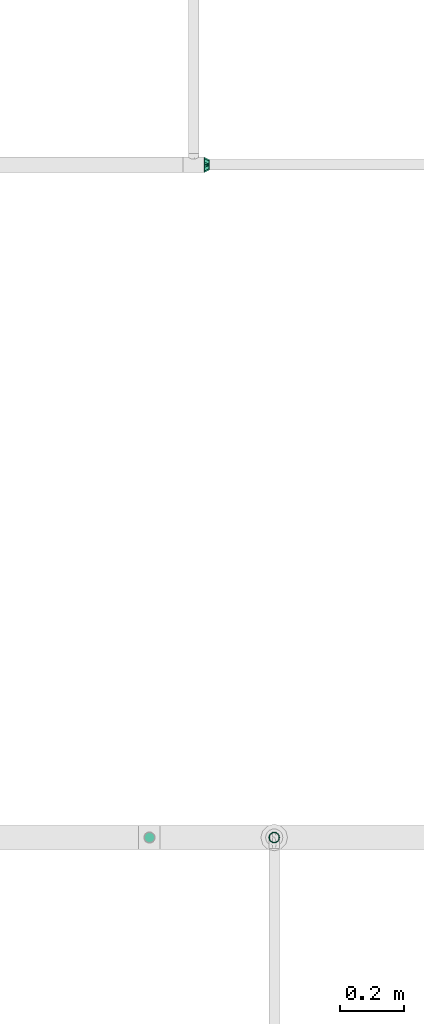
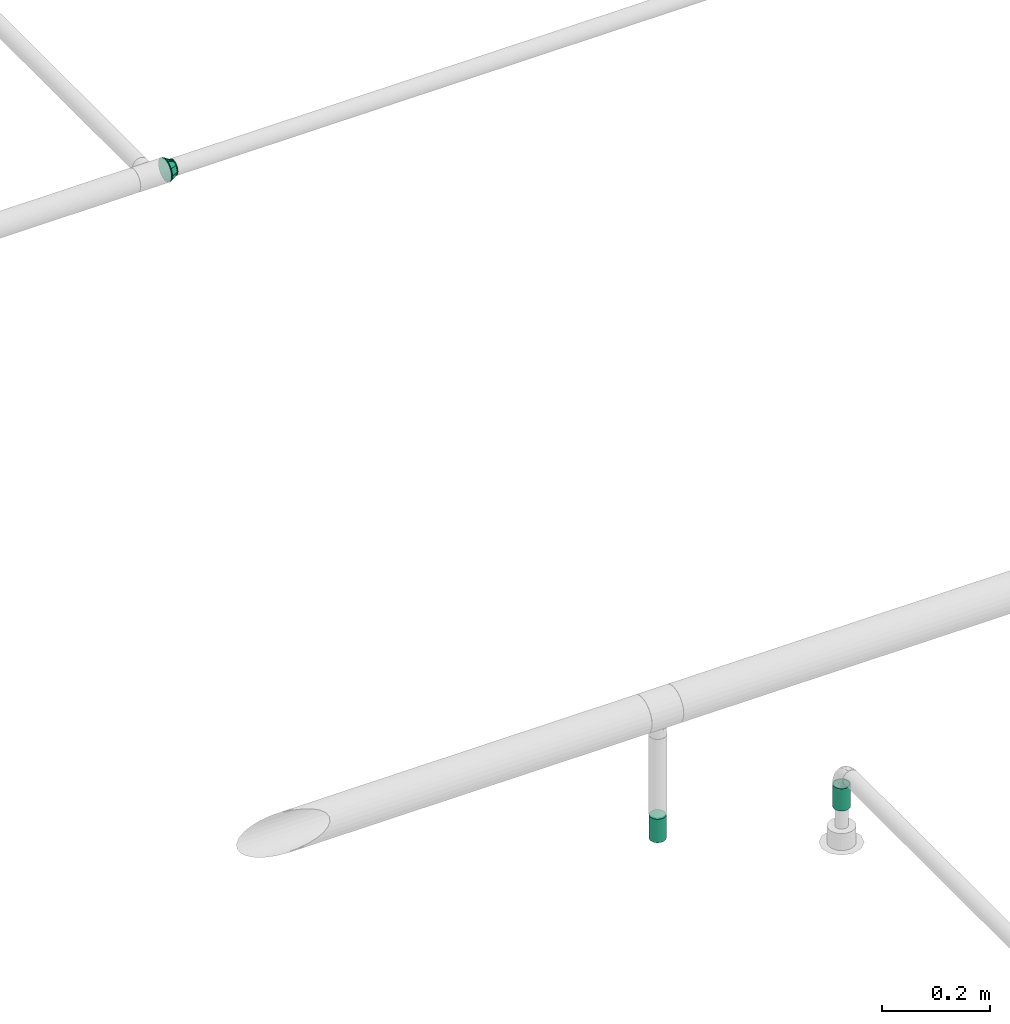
# One storey, part 31 of 45: 1 flow fitting, 1 flow segment, 1 flow terminal.
"""IFC2X3 building model written with IfcOpenShell, lengths in millimetres."""

from ifc_helpers import new_model, entity, si_unit, converted_unit, derived_unit, direction, frame, origin_with_axes, origin_2d_with_axis, place, context, subcontext, project, spatial, hollow_circle, extrude, open_shell, surface_model, source, transform, mapped, type_object, element, save


model = new_model("IFC2X3")

# Units and contexts
model_context = context("Model", 3, precision=0.01, world=frame((0.0, 4.29681676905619e-09, 0.0)), true_north=direction((4.01073788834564e-13, 1.0)))
plan_context = context("Plan", 3, precision=0.01, world=frame((0.0, 4.29681676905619e-09, 0.0)), true_north=direction((4.01073788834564e-13, 1.0)))
body_context = subcontext(model_context, "Body", "Model", "MODEL_VIEW")
ifc_project = project(units=[converted_unit("PLANEANGLEUNIT", "DEGREE", entity("IfcPositiveLengthMeasure", 0.0174532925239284), si_unit("PLANEANGLEUNIT", "RADIAN"), dimensions=[0, 0, 0, 0, 0, 0, 0]), si_unit("AREAUNIT", "SQUARE_METRE"), si_unit("LENGTHUNIT", "METRE", prefix="MILLI"), si_unit("MASSUNIT", "GRAM", prefix="KILO"), si_unit("POWERUNIT", "WATT"), si_unit("PRESSUREUNIT", "PASCAL", prefix="KILO"), si_unit("FORCEUNIT", "NEWTON", prefix="KILO"), si_unit("ELECTRICVOLTAGEUNIT", "VOLT"), si_unit("ELECTRICCURRENTUNIT", "AMPERE"), si_unit("THERMODYNAMICTEMPERATUREUNIT", "DEGREE_CELSIUS"), si_unit("TIMEUNIT", "SECOND"), si_unit("VOLUMEUNIT", "CUBIC_METRE"), derived_unit("LINEARVELOCITYUNIT", [(si_unit("LENGTHUNIT", "METRE"), 1), (si_unit("TIMEUNIT", "SECOND"), -1)]), derived_unit("VOLUMETRICFLOWRATEUNIT", [(si_unit("VOLUMEUNIT", "CUBIC_METRE"), 1), (si_unit("TIMEUNIT", "SECOND"), -1)]), derived_unit("THERMALTRANSMITTANCEUNIT", [(si_unit("POWERUNIT", "WATT"), 1), (si_unit("THERMODYNAMICTEMPERATUREUNIT", "KELVIN"), -1), (si_unit("AREAUNIT", "SQUARE_METRE"), -1)]), derived_unit("SOUNDPRESSUREUNIT", [(si_unit("PRESSUREUNIT", "PASCAL"), 1)])], contexts=[model_context, plan_context])

# Site, building, storey
site_placement = place(None, frame((0.0, -4.29681676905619e-09, 0.0), z_axis=(0.0, 0.0, 1.0), x_axis=(1.0, 0.0, 0.0)))
site = spatial("IfcSite", under=ifc_project, at=site_placement, CompositionType="ELEMENT")
building_placement = place(site_placement, frame((0.0, 4.29681676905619e-09, 0.0), z_axis=(0.0, 0.0, 1.0), x_axis=(1.0, 0.0, 0.0)))
building = spatial("IfcBuilding", under=site, at=building_placement, Name="mc-building", CompositionType="ELEMENT")
storey_placement = place(building_placement, frame((0.0, 0.0, 210200.0), z_axis=(0.0, 0.0, 1.0), x_axis=(1.0, 0.0, 0.0)))
storey = spatial("IfcBuildingStorey", under=building, at=storey_placement, Name="Nivå F - 0,7 m", CompositionType="ELEMENT", Elevation=210200.0)

# Flow fitting
pipe_fitting_type = type_object("IfcPipeFittingType", Name="magi_pipe_fe_reducer_centric_short_001", PredefinedType="TRANSITION")
shared_shape_1 = source(origin_with_axes(), body_context, "Body", "SurfaceModel", [
    surface_model("IfcShellBasedSurfaceModel", [(-2.0, 0.0, 24.2), (-2.0, 6.26342, 23.37541), (-2.0, 12.1, 20.95781), (-2.0, 17.11198, 17.11198), (-2.0, 24.2, 0.0), (-2.0, 20.95781, 12.1), (-2.0, -23.37541, 6.26342), (-2.0, -17.11198, -17.11198), (-2.0, -6.26342, 23.37541), (-2.0, -17.11198, 17.11198), (-2.0, -12.1, 20.95781), (-2.0, -20.95781, 12.1), (-2.0, -24.2, 0.0), (-2.0, 23.37541, 6.26342), (-2.0, 23.37541, -6.26342), (-2.0, 6.26342, -23.37541), (-2.0, 17.11198, -17.11198), (-2.0, 20.95781, -12.1), (-2.0, 12.1, -20.95781), (-2.0, -23.37541, -6.26342), (-2.0, -20.95781, -12.1), (-2.0, -6.26342, -23.37541), (-2.0, -12.1, -20.95781), (-2.0, 0.0, -24.2), (0.0, 24.2, 0.0), (0.0, 6.26342, -23.37541), (0.0, 12.1, -20.95781), (0.0, 23.37541, -6.26342), (0.0, 17.11198, -17.11198), (0.0, 20.95781, -12.1), (0.0, -24.2, 0.0), (0.0, -12.1, -20.95781), (0.0, -6.26342, -23.37541), (0.0, 0.0, -24.2), (0.0, -17.11198, -17.11198), (0.0, -23.37541, -6.26342), (0.0, -20.95781, -12.1), (0.0, 20.95781, 12.1), (0.0, 17.11198, 17.11198), (0.0, 12.1, 20.95781), (0.0, 6.26342, 23.37541), (0.0, 0.0, 24.2), (0.0, -23.37541, 6.26342), (0.0, -17.11198, 17.11198), (0.0, -20.95781, 12.1), (0.0, -6.26342, 23.37541), (0.0, -12.1, 20.95781), (0.0, 23.37541, 6.26342), (0.0, 7.47821, 23.01557), (0.0, 19.57821, 14.2244), (0.0, -7.47821, 23.01557), (0.0, 7.47821, -23.01557), (0.0, 19.57821, -14.2244), (0.0, -7.47821, -23.01557), (0.0, -19.57821, -14.2244), (16.6, 4.37404, -16.32415), (16.6, 8.45, -14.63583), (16.6, 11.9501, -11.9501), (16.6, 0.0, -16.9), (16.6, 16.32415, -4.37404), (16.6, 16.32415, 4.37404), (16.6, 14.63583, -8.45), (16.6, -8.45, 14.63583), (16.6, -8.45, -14.63583), (16.6, -4.37404, -16.32415), (16.6, -11.9501, -11.9501), (16.6, -16.32415, -4.37404), (16.6, -14.63583, -8.45), (16.6, -16.32415, 4.37404), (16.6, 16.9, 0.0), (16.6, 14.63583, 8.45), (16.6, 11.9501, 11.9501), (16.6, 4.37404, 16.32415), (16.6, 8.45, 14.63583), (16.6, 0.0, 16.9), (16.6, -14.63583, 8.45), (16.6, -16.9, 0.0), (16.6, -11.9501, 11.9501), (16.6, -4.37404, 16.32415), (14.6, 11.9501, 11.9501), (14.6, 0.0, 16.9), (14.6, 4.37404, 16.32415), (14.6, 8.45, 14.63583), (14.6, 14.63583, 8.45), (14.6, 16.32415, 4.37404), (14.6, -16.32415, 4.37404), (14.6, -8.45, -14.63583), (14.6, -8.45, 14.63583), (14.6, -14.63583, 8.45), (14.6, -11.9501, 11.9501), (14.6, -4.37404, 16.32415), (14.6, -16.32415, -4.37404), (14.6, -16.9, 0.0), (14.6, 16.32415, -4.37404), (14.6, 11.9501, -11.9501), (14.6, 14.63583, -8.45), (14.6, 8.45, -14.63583), (14.6, 4.37404, -16.32415), (14.6, 0.0, -16.9), (14.6, -11.9501, -11.9501), (14.6, -14.63583, -8.45), (14.6, -4.37404, -16.32415), (14.6, 16.9, 0.0), (0.0, -19.57821, 14.2244), (14.6, -13.18758, -8.96258), (14.6, 14.42505, -5.97505), (0.0, 21.8891, -7.1122), (0.0, 13.52821, -18.61999), (0.0, 16.55321, -16.42219), (14.6, -14.42505, -5.97505), (0.0, -21.8891, -7.1122), (0.0, -20.73366, -10.6683), (14.6, 5.97505, -14.42505), (0.0, 0.0, -23.01557), (14.6, -2.98753, -15.66253), (14.6, 2.98753, -15.66253), (14.6, 8.96258, -13.18758), (14.6, 15.66253, -2.98753), (14.6, -15.66253, -2.98753), (0.0, -13.52821, -18.61999), (14.6, -5.97505, -14.42505), (14.6, -8.96258, -13.18758), (14.6, 13.18758, -8.96258), (14.6, 13.18758, 8.96258), (14.6, -14.42505, 5.97505), (0.0, -21.8891, 7.1122), (0.0, -13.52821, 18.61999), (0.0, -16.55321, 16.42219), (14.6, 14.42505, 5.97505), (0.0, 21.8891, 7.1122), (0.0, 20.73366, 10.6683), (14.6, -5.97505, 14.42505), (0.0, 0.0, 23.01557), (14.6, 2.98753, 15.66253), (14.6, -2.98753, 15.66253), (14.6, -8.96258, 13.18758), (14.6, -15.66253, 2.98753), (14.6, 15.66253, 2.98753), (0.0, 13.52821, 18.61999), (14.6, 5.97505, 14.42505), (14.6, 8.96258, 13.18758), (14.6, -13.18758, 8.96258)], [open_shell([[[0, 1, 2]], [[0, 2, 3]], [[4, 3, 5]], [[6, 0, 7]], [[0, 3, 7]], [[8, 9, 10]], [[8, 0, 9]], [[9, 6, 11]], [[0, 6, 9]], [[6, 7, 12]], [[4, 5, 13]], [[3, 14, 15]], [[16, 14, 17]], [[18, 15, 14]], [[18, 14, 16]], [[15, 7, 3]], [[19, 7, 20]], [[12, 7, 19]], [[15, 21, 22]], [[22, 7, 15]], [[21, 15, 23]], [[14, 3, 4]], [[24, 25, 26]], [[27, 26, 28]], [[27, 24, 26]], [[27, 28, 29]], [[25, 30, 31]], [[25, 32, 33]], [[25, 31, 32]], [[34, 35, 36]], [[34, 31, 30]], [[34, 30, 35]], [[25, 24, 37]], [[37, 38, 25]], [[25, 38, 30]], [[39, 40, 41]], [[39, 41, 38]], [[30, 38, 41]], [[42, 43, 44]], [[45, 42, 30]], [[43, 45, 46]], [[45, 43, 42]], [[30, 41, 45]], [[24, 47, 37]], [[19, 35, 12]], [[20, 36, 19]], [[31, 7, 22]], [[20, 7, 34]], [[32, 22, 21]], [[19, 36, 35]], [[35, 30, 12]], [[32, 31, 22]], [[34, 7, 31]], [[34, 36, 20]], [[33, 32, 21]], [[21, 23, 33]], [[15, 25, 23]], [[18, 26, 15]], [[29, 16, 17]], [[18, 16, 28]], [[27, 17, 14]], [[18, 28, 26]], [[26, 25, 15]], [[24, 27, 14]], [[29, 17, 27]], [[29, 28, 16]], [[4, 24, 14]], [[23, 25, 33]], [[13, 47, 4]], [[5, 37, 13]], [[39, 3, 2]], [[5, 3, 38]], [[40, 2, 1]], [[13, 37, 47]], [[47, 24, 4]], [[40, 39, 2]], [[38, 3, 39]], [[38, 37, 5]], [[41, 40, 1]], [[1, 0, 41]], [[8, 45, 0]], [[10, 46, 8]], [[44, 9, 11]], [[10, 9, 43]], [[42, 11, 6]], [[10, 43, 46]], [[46, 45, 8]], [[30, 42, 6]], [[44, 11, 42]], [[44, 43, 9]], [[12, 30, 6]], [[0, 45, 41]], [[48, 49, 50]], [[49, 51, 30]], [[52, 51, 49]], [[30, 53, 54]], [[30, 51, 53]], [[49, 24, 52]], [[55, 56, 57]], [[58, 55, 57]], [[57, 59, 60]], [[59, 57, 61]], [[57, 62, 63]], [[58, 63, 64]], [[58, 57, 63]], [[65, 66, 67]], [[66, 65, 63]], [[63, 68, 66]], [[60, 59, 69]], [[60, 70, 71]], [[60, 71, 72]], [[60, 72, 62]], [[72, 71, 73]], [[62, 72, 74]], [[68, 62, 75]], [[76, 66, 68]], [[75, 62, 77]], [[62, 68, 63]], [[74, 78, 62]], [[57, 60, 62]], [[79, 80, 81]], [[79, 81, 82]], [[79, 83, 84]], [[79, 84, 80]], [[85, 80, 86]], [[87, 88, 89]], [[88, 87, 90]], [[80, 88, 90]], [[80, 85, 88]], [[85, 91, 92]], [[86, 80, 84]], [[84, 93, 94]], [[94, 93, 95]], [[94, 96, 97]], [[86, 84, 94]], [[97, 98, 94]], [[91, 99, 100]], [[99, 91, 86]], [[86, 98, 101]], [[91, 85, 86]], [[94, 98, 86]], [[93, 84, 102]], [[91, 66, 92]], [[100, 67, 91]], [[63, 99, 86]], [[100, 99, 65]], [[64, 86, 101]], [[91, 67, 66]], [[66, 76, 92]], [[64, 63, 86]], [[65, 99, 63]], [[65, 67, 100]], [[58, 64, 101]], [[101, 98, 58]], [[97, 55, 98]], [[96, 56, 97]], [[61, 94, 95]], [[96, 94, 57]], [[59, 95, 93]], [[96, 57, 56]], [[56, 55, 97]], [[69, 59, 93]], [[61, 95, 59]], [[61, 57, 94]], [[102, 69, 93]], [[98, 55, 58]], [[84, 60, 102]], [[83, 70, 84]], [[73, 79, 82]], [[83, 79, 71]], [[72, 82, 81]], [[84, 70, 60]], [[60, 69, 102]], [[72, 73, 82]], [[71, 79, 73]], [[71, 70, 83]], [[74, 72, 81]], [[81, 80, 74]], [[90, 78, 80]], [[87, 62, 90]], [[75, 89, 88]], [[87, 89, 77]], [[68, 88, 85]], [[87, 77, 62]], [[62, 78, 90]], [[76, 68, 85]], [[75, 88, 68]], [[75, 77, 89]], [[92, 76, 85]], [[80, 78, 74]], [[80, 89, 102]], [[102, 79, 80]], [[89, 99, 102]], [[98, 102, 99]], [[94, 102, 98]], [[99, 89, 92]], [[50, 30, 103]], [[30, 50, 49]], [[54, 99, 104]], [[105, 52, 106]], [[94, 107, 108]], [[109, 110, 111]], [[51, 107, 112]], [[113, 114, 53]], [[113, 115, 98]], [[116, 112, 107]], [[24, 117, 106]], [[51, 115, 113]], [[30, 118, 92]], [[99, 54, 119]], [[119, 120, 121]], [[30, 110, 118]], [[117, 24, 102]], [[52, 105, 122]], [[114, 120, 53]], [[114, 113, 98]], [[51, 112, 115]], [[94, 108, 52]], [[109, 118, 110]], [[54, 104, 111]], [[104, 109, 111]], [[94, 52, 122]], [[120, 119, 53]], [[121, 99, 119]], [[117, 105, 106]], [[107, 94, 116]], [[49, 79, 123]], [[124, 103, 125]], [[89, 126, 127]], [[128, 129, 130]], [[50, 126, 131]], [[132, 133, 48]], [[132, 134, 80]], [[135, 131, 126]], [[30, 136, 125]], [[50, 134, 132]], [[24, 137, 102]], [[79, 49, 138]], [[138, 139, 140]], [[24, 129, 137]], [[136, 30, 92]], [[103, 124, 141]], [[133, 139, 48]], [[133, 132, 80]], [[50, 131, 134]], [[89, 127, 103]], [[128, 137, 129]], [[49, 123, 130]], [[123, 128, 130]], [[89, 103, 141]], [[139, 138, 48]], [[140, 79, 138]], [[136, 124, 125]], [[126, 89, 135]]])]),
])
flow_fitting_placement = place(storey_placement, frame((344691.3, 462235.84736, 2810.46838999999), z_axis=(-7.999999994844e-06, -3.49999999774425e-05, 0.9999999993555), x_axis=(0.999999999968, -2.7999999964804e-10, 7.999999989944e-06)))
element("IfcFlowFitting", 1, at=flow_fitting_placement, inside=storey, type_object=pipe_fitting_type, Name="magi_pipe_fe_reducer_centric_short_001", context=body_context, shape_type="MappedRepresentation", body=[
    mapped(shared_shape_1, transform((0.0, 0.0, 0.0), scale=1.0)),
])

# Flow segment
pipe_segment_type = type_object("IfcPipeSegmentType", Name="Stålrør normaltykke", PredefinedType="RIGIDSEGMENT")
shared_shape_2 = source(origin_with_axes(), body_context, "Body", "SweptSolid", [
    extrude(hollow_circle(Radius=16.9, WallThickness=2.0, at=origin_2d_with_axis()), frame((0.0, 0.0, 0.0), z_axis=(1.0, 0.0, 0.0), x_axis=(0.0, 1.0, 0.0)), (0.0, 0.0, 1.0), 50.0),
])
flow_segment_placement = place(storey_placement, frame((344910.95175, 460120.00018, 2632.0), z_axis=(0.0, -1.0, 0.0), x_axis=(0.0, 0.0, -1.0)))
element("IfcFlowSegment", 2, at=flow_segment_placement, inside=storey, type_object=pipe_segment_type, Name="Stålrør normaltykke", context=body_context, shape_type="MappedRepresentation", body=[
    mapped(shared_shape_2, transform((0.0, 0.0, 0.0), scale=1.0)),
])

# Flow terminal
fire_suppression_terminal_type = type_object("IfcFireSuppressionTerminalType", Name="SP-15-K80-68DGR-STD-HIMLING", PredefinedType="NOTDEFINED")
shared_shape_3 = source(origin_with_axes(), body_context, "Body", "SurfaceModel", [
    surface_model("IfcShellBasedSurfaceModel", [(4.1411, -15.45481, 53.0), (8.0, -13.85641, 53.0), (11.31371, -11.31371, 53.0), (-8.0, -13.85641, 53.0), (15.45481, -4.1411, 53.0), (16.0, 0.0, 53.0), (13.85641, -8.0, 53.0), (0.0, -16.0, 53.0), (-4.1411, -15.45481, 53.0), (-13.85641, -8.0, 53.0), (-11.31371, -11.31371, 53.0), (-15.45481, -4.1411, 53.0), (15.45481, 4.1411, 53.0), (13.85641, 8.0, 53.0), (11.31371, 11.31371, 53.0), (-4.1411, 15.45481, 53.0), (8.0, 13.85641, 53.0), (4.1411, 15.45481, 53.0), (0.0, 16.0, 53.0), (-13.85641, 8.0, 53.0), (-15.45481, 4.1411, 53.0), (-16.0, 0.0, 53.0), (-11.31371, 11.31371, 53.0), (-8.0, 13.85641, 53.0), (0.0, 16.0, 0.0), (4.1411, 15.45481, 0.0), (8.0, 13.85641, 0.0), (-4.1411, 15.45481, 0.0), (11.31371, 11.31371, 0.0), (13.85641, 8.0, 0.0), (15.45481, 4.1411, 0.0), (-15.45481, -4.1411, 0.0), (-11.31371, 11.31371, 0.0), (-8.0, 13.85641, 0.0), (-13.85641, 8.0, 0.0), (-15.45481, 4.1411, 0.0), (-16.0, 0.0, 0.0), (4.1411, -15.45481, 0.0), (16.0, 0.0, 0.0), (15.45481, -4.1411, 0.0), (13.85641, -8.0, 0.0), (11.31371, -11.31371, 0.0), (8.0, -13.85641, 0.0), (-8.0, -13.85641, 0.0), (-13.85641, -8.0, 0.0), (-11.31371, -11.31371, 0.0), (0.0, -16.0, 0.0), (-4.1411, -15.45481, 0.0)], [open_shell([[[0, 1, 2]], [[3, 0, 2]], [[4, 5, 2]], [[4, 2, 6]], [[3, 2, 5]], [[7, 3, 8]], [[7, 0, 3]], [[3, 9, 10]], [[9, 3, 11]], [[5, 11, 3]], [[5, 12, 11]], [[12, 13, 14]], [[15, 12, 14]], [[16, 17, 18]], [[14, 16, 15]], [[18, 15, 16]], [[11, 19, 20]], [[21, 11, 20]], [[22, 15, 23]], [[15, 22, 19]], [[19, 11, 15]], [[11, 12, 15]], [[24, 25, 26]], [[27, 24, 26]], [[28, 29, 30]], [[27, 26, 28]], [[27, 28, 31]], [[27, 32, 33]], [[32, 27, 34]], [[34, 31, 35]], [[31, 34, 27]], [[35, 31, 36]], [[28, 30, 31]], [[37, 38, 39]], [[37, 39, 40]], [[41, 42, 37]], [[41, 37, 40]], [[38, 37, 43]], [[44, 43, 45]], [[43, 44, 31]], [[43, 46, 47]], [[43, 31, 38]], [[37, 46, 43]], [[38, 31, 30]], [[11, 31, 44]], [[45, 9, 44]], [[3, 43, 47]], [[45, 43, 10]], [[8, 47, 46]], [[31, 21, 36]], [[31, 11, 21]], [[44, 9, 11]], [[45, 10, 9]], [[3, 10, 43]], [[47, 8, 3]], [[46, 7, 8]], [[0, 37, 42]], [[41, 1, 42]], [[6, 40, 39]], [[41, 40, 2]], [[4, 39, 38]], [[37, 0, 7]], [[42, 1, 0]], [[41, 2, 1]], [[40, 6, 2]], [[4, 6, 39]], [[38, 5, 4]], [[37, 7, 46]], [[12, 38, 30]], [[13, 30, 29]], [[16, 26, 25]], [[17, 25, 24]], [[30, 13, 12]], [[12, 5, 38]], [[28, 14, 13]], [[28, 26, 14]], [[14, 26, 16]], [[25, 17, 16]], [[28, 13, 29]], [[24, 18, 17]], [[15, 27, 33]], [[32, 23, 33]], [[19, 34, 35]], [[32, 34, 22]], [[20, 35, 36]], [[27, 15, 18]], [[33, 23, 15]], [[32, 22, 23]], [[34, 19, 22]], [[20, 19, 35]], [[36, 21, 20]], [[27, 18, 24]]])]),
])
flow_terminal_placement = place(storey_placement, frame((344518.61043, 460120.00018, 2700.0), z_axis=(0.0, 0.0, -1.0), x_axis=(-1.0, 0.0, 0.0)))
element("IfcFlowTerminal", 3, at=flow_terminal_placement, inside=storey, type_object=fire_suppression_terminal_type, Name="SP-15-K80-68DGR-STD-HIMLING", context=body_context, shape_type="MappedRepresentation", body=[
    mapped(shared_shape_3, transform((0.0, 0.0, 0.0), scale=1.0)),
])

save(model, "model.ifc")
